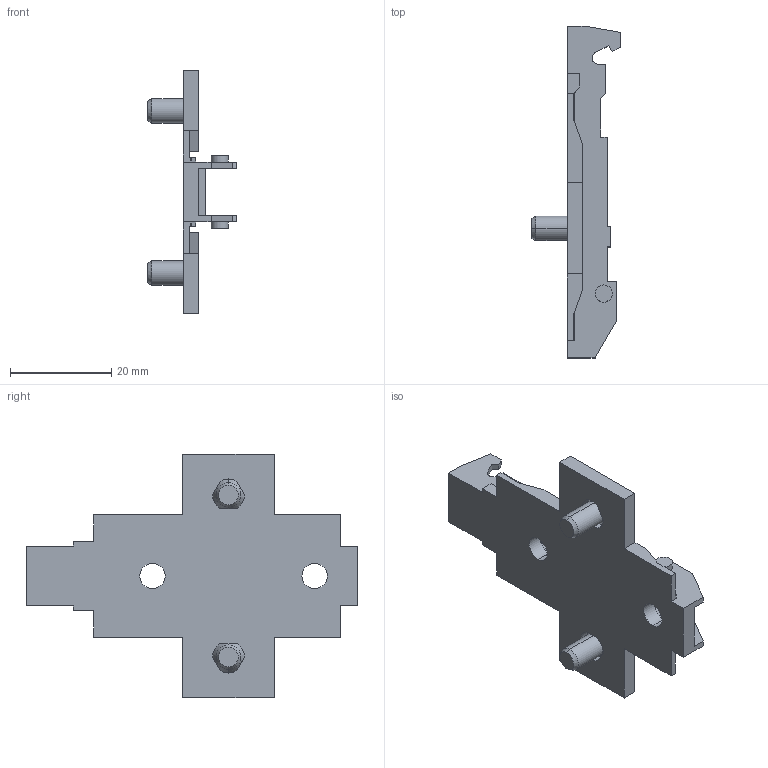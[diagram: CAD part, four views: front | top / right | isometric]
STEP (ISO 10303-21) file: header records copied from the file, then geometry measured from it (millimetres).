
FILE_DESCRIPTION (( 'STEP AP214' ), '1' );
FILE_NAME ('1D_Kreuzmontageplatte 37_32_Euro_vorgestellt 10_0.step', '2010-11-18T10:20:00', ( 'grass' ), ( '' ), 'SwSTEP 2.0', 'SolidWorks 2010', '' );
FILE_SCHEMA (( 'AUTOMOTIVE_DESIGN' ));
Length unit declared in the file: millimetre
Products named in the file (1): 1D_Kreuzmontageplatte 37_32_Euro_vorgestellt 10_0
Bounding box: 17.5 x 65.5 x 48 mm (x, y, z)
Volume: 5977.8 mm3; surface area: 6292 mm2
Topology: 1 solids, 1 shells, 140 faces, 400 edges, 260 vertices
Faces by surface type: plane 94, cylinder 34, cone 12
Entity records: 4642 total; most frequent: CARTESIAN_POINT 893, ORIENTED_EDGE 800, DIRECTION 742, EDGE_CURVE 400, LINE 300, VECTOR 300, VERTEX_POINT 260, AXIS2_PLACEMENT_3D 221
